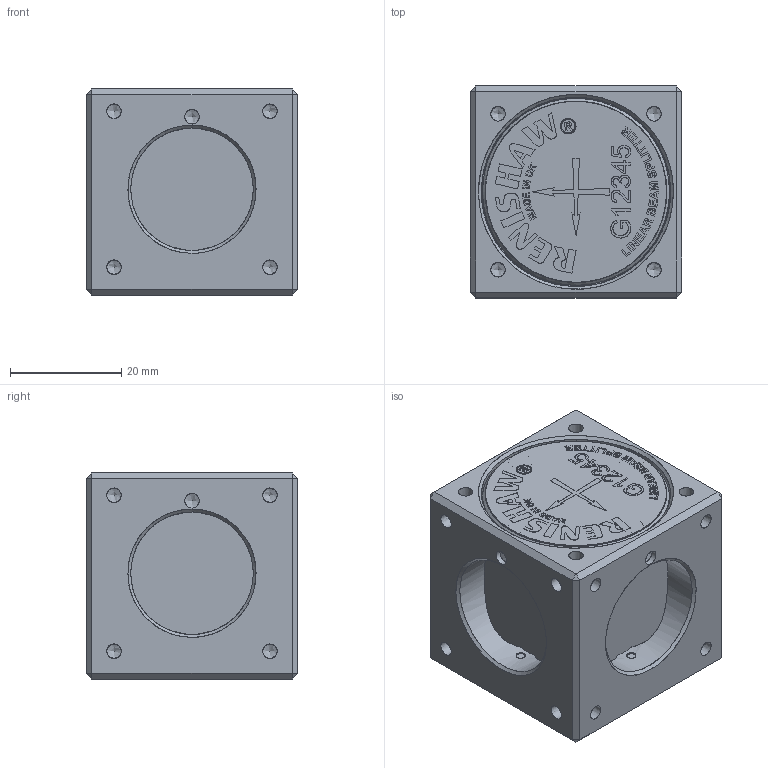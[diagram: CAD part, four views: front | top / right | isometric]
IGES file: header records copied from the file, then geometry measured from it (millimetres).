
Global section: file name: Y:\_LCPD Drawings\13.1 Lightweight Models\8003\LINEAR BEAMSPLITTER\LA_8003_3148_A.igs; native system: NX V6.0; preprocessor: SIEMENS UGS NX 6.0; date: 20100720.152127; units: millimetre
Bounding box: 38 x 38 x 37 mm (x, y, z)
Surface area: 15293.7 mm2 (no closed solid volume)
Topology: 0 solids, 0 shells, 906 faces, 6074 edges, 5914 vertices
Faces by surface type: bspline 906
